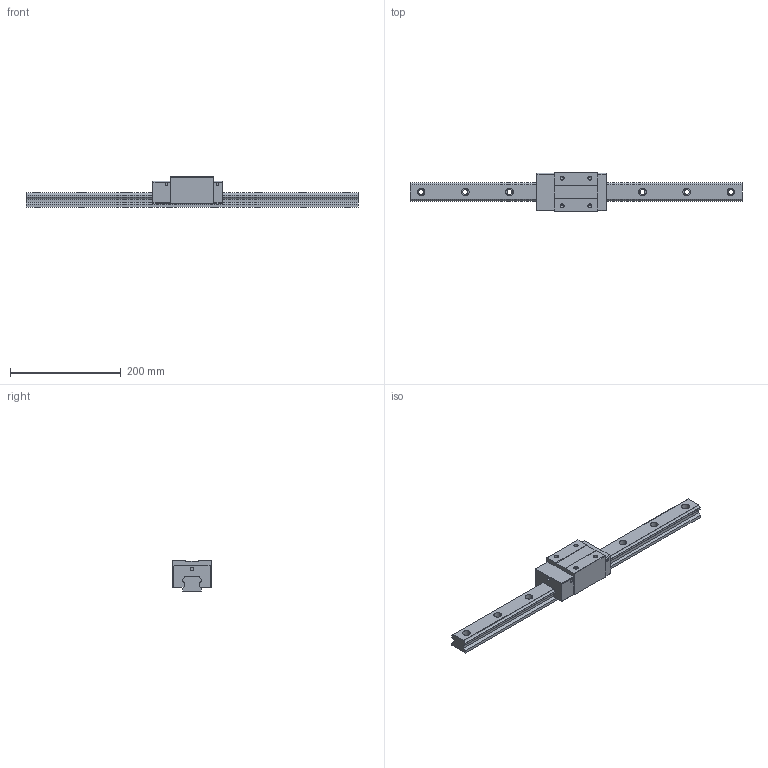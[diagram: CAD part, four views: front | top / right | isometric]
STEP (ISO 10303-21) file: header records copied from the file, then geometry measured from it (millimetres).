
FILE_DESCRIPTION (( 'STEP AP203' ), '1' );
FILE_NAME ('TRH35VN-BN.STEP', '2024-07-10T03:55:41', ( '' ), ( '' ), 'SwSTEP 2.0', 'SolidWorks 2022', '' );
FILE_SCHEMA (( 'CONFIG_CONTROL_DESIGN' ));
Length unit declared in the file: millimetre
Products named in the file (1): TRH35VN-BN
Bounding box: 600 x 70 x 55 mm (x, y, z)
Volume: 762464.1 mm3; surface area: 123451.9 mm2
Topology: 2 solids, 2 shells, 186 faces, 488 edges, 316 vertices
Faces by surface type: cylinder 88, plane 82, cone 16
Entity records: 5819 total; most frequent: DIRECTION 1038, CARTESIAN_POINT 983, ORIENTED_EDGE 960, EDGE_CURVE 480, AXIS2_PLACEMENT_3D 371, VERTEX_POINT 316, LINE 296, VECTOR 296
